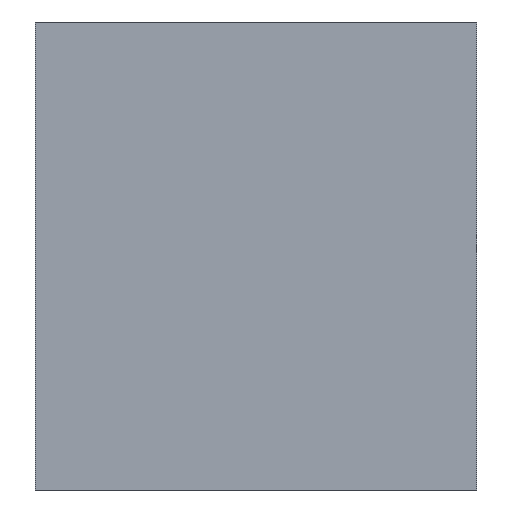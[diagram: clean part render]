
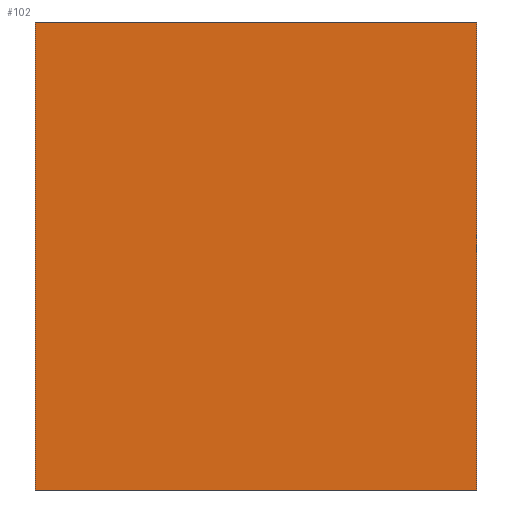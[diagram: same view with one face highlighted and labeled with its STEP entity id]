
A CAD part, left-side view. The second image highlights one B-rep face of the part: STEP entity #102.
In plain terms, the highlighted planar face has unit normal (-1, 0, 0).
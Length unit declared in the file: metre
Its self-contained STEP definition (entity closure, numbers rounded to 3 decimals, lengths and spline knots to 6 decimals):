
#28=ORIENTED_EDGE('',*,*,#38,.F.);
#29=ORIENTED_EDGE('',*,*,#42,.T.);
#30=ORIENTED_EDGE('',*,*,#45,.F.);
#31=ORIENTED_EDGE('',*,*,#47,.F.);
#38=EDGE_CURVE('',#50,#51,#58,.T.);
#42=EDGE_CURVE('',#50,#53,#62,.T.);
#45=EDGE_CURVE('',#55,#53,#65,.T.);
#47=EDGE_CURVE('',#51,#55,#67,.T.);
#50=VERTEX_POINT('',#155);
#51=VERTEX_POINT('',#157);
#53=VERTEX_POINT('',#163);
#55=VERTEX_POINT('',#169);
#58=LINE('',#156,#70);
#62=LINE('',#164,#74);
#65=LINE('',#170,#77);
#67=LINE('',#173,#79);
#70=VECTOR('',#129,1.);
#74=VECTOR('',#135,1.);
#77=VECTOR('',#140,1.);
#79=VECTOR('',#144,1.);
#84=EDGE_LOOP('',(#28,#29,#30,#31));
#90=FACE_BOUND('',#84,.T.);
#96=PLANE('',#121);
#102=ADVANCED_FACE('',(#90),#96,.T.);
#121=AXIS2_PLACEMENT_3D('',#174,#145,#146);
#129=DIRECTION('',(0.,-1.,0.));
#135=DIRECTION('',(0.,0.,-1.));
#140=DIRECTION('',(0.,1.,0.));
#144=DIRECTION('',(0.,0.,-1.));
#145=DIRECTION('',(-1.,0.,0.));
#146=DIRECTION('',(0.,-1.,0.));
#155=CARTESIAN_POINT('',(-0.04,-0.030741,0.005421));
#156=CARTESIAN_POINT('',(-0.04,-0.032514,0.005421));
#157=CARTESIAN_POINT('',(-0.04,-0.034286,0.005421));
#163=CARTESIAN_POINT('',(-0.04,-0.030741,0.001662));
#164=CARTESIAN_POINT('',(-0.04,-0.030741,0.003541));
#169=CARTESIAN_POINT('',(-0.04,-0.034286,0.001662));
#170=CARTESIAN_POINT('',(-0.04,-0.032514,0.001662));
#173=CARTESIAN_POINT('',(-0.04,-0.034286,0.003541));
#174=CARTESIAN_POINT('',(-0.04,-0.0325,0.));
